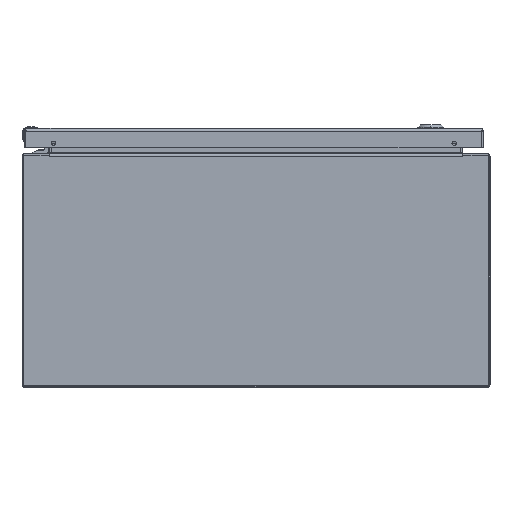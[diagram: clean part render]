
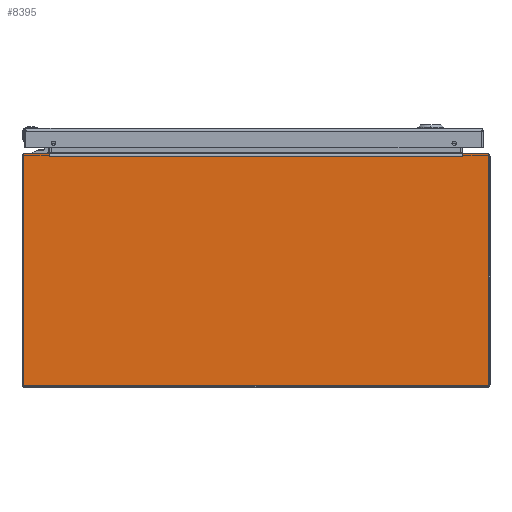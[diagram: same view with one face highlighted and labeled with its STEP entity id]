
A CAD part, front view. The second image highlights one B-rep face of the part: STEP entity #8395.
In plain terms, the highlighted planar face has unit normal (0, -1, 0).
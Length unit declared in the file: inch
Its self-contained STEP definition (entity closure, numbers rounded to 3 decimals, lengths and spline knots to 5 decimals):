
#7498=CARTESIAN_POINT('',(9.887,0.,4.897));
#7499=DIRECTION('',(0.,-1.,0.));
#7500=DIRECTION('',(1.,0.,0.));
#7501=AXIS2_PLACEMENT_3D('',#7498,#7499,#7500);
#7506=DIRECTION('',(0.,0.,-1.));
#7507=VECTOR('',#7506,9.764);
#7508=CARTESIAN_POINT('',(9.967,0.,4.897));
#7509=LINE('',#7508,#7507);
#7513=CARTESIAN_POINT('',(9.887,0.,-4.867));
#7514=DIRECTION('',(0.,-1.,0.));
#7515=DIRECTION('',(0.,0.,-1.));
#7516=AXIS2_PLACEMENT_3D('',#7513,#7514,#7515);
#7521=CARTESIAN_POINT('',(-9.887,0.,-4.867));
#7522=DIRECTION('',(0.,-1.,0.));
#7523=DIRECTION('',(-1.,0.,0.));
#7524=AXIS2_PLACEMENT_3D('',#7521,#7522,#7523);
#7529=DIRECTION('',(0.,0.,1.));
#7530=VECTOR('',#7529,9.764);
#7531=CARTESIAN_POINT('',(-9.967,0.,-4.867));
#7532=LINE('',#7531,#7530);
#7536=CARTESIAN_POINT('',(-9.887,0.,4.897));
#7537=DIRECTION('',(0.,-1.,0.));
#7538=DIRECTION('',(0.,0.,1.));
#7539=AXIS2_PLACEMENT_3D('',#7536,#7537,#7538);
#7551=DIRECTION('',(-1.,0.,0.));
#7552=VECTOR('',#7551,1.062);
#7553=CARTESIAN_POINT('',(9.887,0.,4.977));
#7554=LINE('',#7553,#7552);
#7579=DIRECTION('',(0.,0.,-1.));
#7580=VECTOR('',#7579,0.094);
#7581=CARTESIAN_POINT('',(8.825,0.,4.977));
#7582=LINE('',#7581,#7580);
#7722=DIRECTION('',(1.,0.,0.));
#7723=VECTOR('',#7722,17.65);
#7724=CARTESIAN_POINT('',(-8.825,0.,4.883));
#7725=LINE('',#7724,#7723);
#7766=DIRECTION('',(0.,0.,1.));
#7767=VECTOR('',#7766,0.094);
#7768=CARTESIAN_POINT('',(-8.825,0.,4.883));
#7769=LINE('',#7768,#7767);
#7801=DIRECTION('',(-1.,0.,0.));
#7802=VECTOR('',#7801,1.062);
#7803=CARTESIAN_POINT('',(-8.825,0.,4.977));
#7804=LINE('',#7803,#7802);
#7843=DIRECTION('',(1.,0.,0.));
#7844=VECTOR('',#7843,19.774);
#7845=CARTESIAN_POINT('',(-9.887,0.,-4.947));
#7846=LINE('',#7845,#7844);
#8248=CARTESIAN_POINT('',(-8.825,0.,4.883));
#8249=CARTESIAN_POINT('',(8.825,0.,4.883));
#8250=VERTEX_POINT('',#8248);
#8251=VERTEX_POINT('',#8249);
#8324=CARTESIAN_POINT('',(8.825,0.,4.977));
#8326=VERTEX_POINT('',#8324);
#8328=CARTESIAN_POINT('',(-8.825,0.,4.977));
#8330=VERTEX_POINT('',#8328);
#8332=CARTESIAN_POINT('',(9.967,0.,4.897));
#8333=CARTESIAN_POINT('',(9.887,0.,4.977));
#8334=VERTEX_POINT('',#8332);
#8335=VERTEX_POINT('',#8333);
#8340=CARTESIAN_POINT('',(9.887,0.,-4.947));
#8341=CARTESIAN_POINT('',(9.967,0.,-4.867));
#8342=VERTEX_POINT('',#8340);
#8343=VERTEX_POINT('',#8341);
#8348=CARTESIAN_POINT('',(-9.967,0.,-4.867));
#8349=CARTESIAN_POINT('',(-9.887,0.,-4.947));
#8350=VERTEX_POINT('',#8348);
#8351=VERTEX_POINT('',#8349);
#8356=CARTESIAN_POINT('',(-9.887,0.,4.977));
#8357=CARTESIAN_POINT('',(-9.967,0.,4.897));
#8358=VERTEX_POINT('',#8356);
#8359=VERTEX_POINT('',#8357);
#8364=CARTESIAN_POINT('',(0.,0.,0.));
#8365=DIRECTION('',(0.,-1.,0.));
#8366=DIRECTION('',(-1.,0.,0.));
#8367=AXIS2_PLACEMENT_3D('',#8364,#8365,#8366);
#8368=PLANE('',#8367);
#8370=ORIENTED_EDGE('',*,*,#8369,.F.);
#8372=ORIENTED_EDGE('',*,*,#8371,.T.);
#8374=ORIENTED_EDGE('',*,*,#8373,.F.);
#8376=ORIENTED_EDGE('',*,*,#8375,.F.);
#8378=ORIENTED_EDGE('',*,*,#8377,.F.);
#8380=ORIENTED_EDGE('',*,*,#8379,.T.);
#8382=ORIENTED_EDGE('',*,*,#8381,.F.);
#8384=ORIENTED_EDGE('',*,*,#8383,.F.);
#8386=ORIENTED_EDGE('',*,*,#8385,.F.);
#8388=ORIENTED_EDGE('',*,*,#8387,.T.);
#8390=ORIENTED_EDGE('',*,*,#8389,.F.);
#8392=ORIENTED_EDGE('',*,*,#8391,.F.);
#8393=EDGE_LOOP('',(#8370,#8372,#8374,#8376,#8378,#8380,#8382,#8384,#8386,#8388,
#8390,#8392));
#8394=FACE_OUTER_BOUND('',#8393,.F.);
#7502=CIRCLE('',#7501,0.08);
#7517=CIRCLE('',#7516,0.08);
#7525=CIRCLE('',#7524,0.08);
#7540=CIRCLE('',#7539,0.08);
#8369=EDGE_CURVE('',#8334,#8335,#7502,.T.);
#8371=EDGE_CURVE('',#8334,#8343,#7509,.T.);
#8373=EDGE_CURVE('',#8342,#8343,#7517,.T.);
#8375=EDGE_CURVE('',#8351,#8342,#7846,.T.);
#8377=EDGE_CURVE('',#8350,#8351,#7525,.T.);
#8379=EDGE_CURVE('',#8350,#8359,#7532,.T.);
#8381=EDGE_CURVE('',#8358,#8359,#7540,.T.);
#8383=EDGE_CURVE('',#8330,#8358,#7804,.T.);
#8385=EDGE_CURVE('',#8250,#8330,#7769,.T.);
#8387=EDGE_CURVE('',#8250,#8251,#7725,.T.);
#8389=EDGE_CURVE('',#8326,#8251,#7582,.T.);
#8391=EDGE_CURVE('',#8335,#8326,#7554,.T.);
#8395=ADVANCED_FACE('',(#8394),#8368,.T.);
